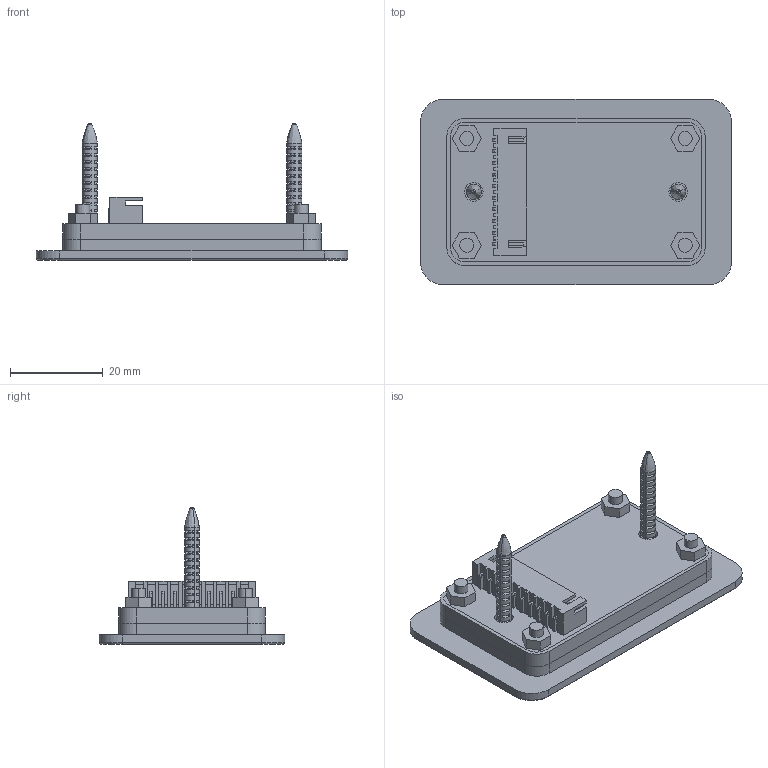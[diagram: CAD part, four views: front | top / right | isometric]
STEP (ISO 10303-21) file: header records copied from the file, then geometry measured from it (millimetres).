
FILE_DESCRIPTION (( 'STEP AP203' ), '1' );
FILE_NAME ('3D_TFH15.STEP', '2017-06-03T02:08:08', ( '' ), ( '' ), 'SwSTEP 2.0', 'SolidWorks 2015', '' );
FILE_SCHEMA (( 'CONFIG_CONTROL_DESIGN' ));
Length unit declared in the file: millimetre
Products named in the file (1): 3D_TFH15
Bounding box: 67 x 40 x 29.5 mm (x, y, z)
Volume: 16201.7 mm3; surface area: 21699.6 mm2
Topology: 15 solids, 15 shells, 1127 faces, 2792 edges, 1822 vertices
Faces by surface type: plane 563, cylinder 282, cone 224, torus 48, sphere 6, bspline 4
Entity records: 34003 total; most frequent: CARTESIAN_POINT 7134, ORIENTED_EDGE 5576, DIRECTION 5472, EDGE_CURVE 2788, AXIS2_PLACEMENT_3D 2012, VERTEX_POINT 1822, LINE 1448, VECTOR 1448
